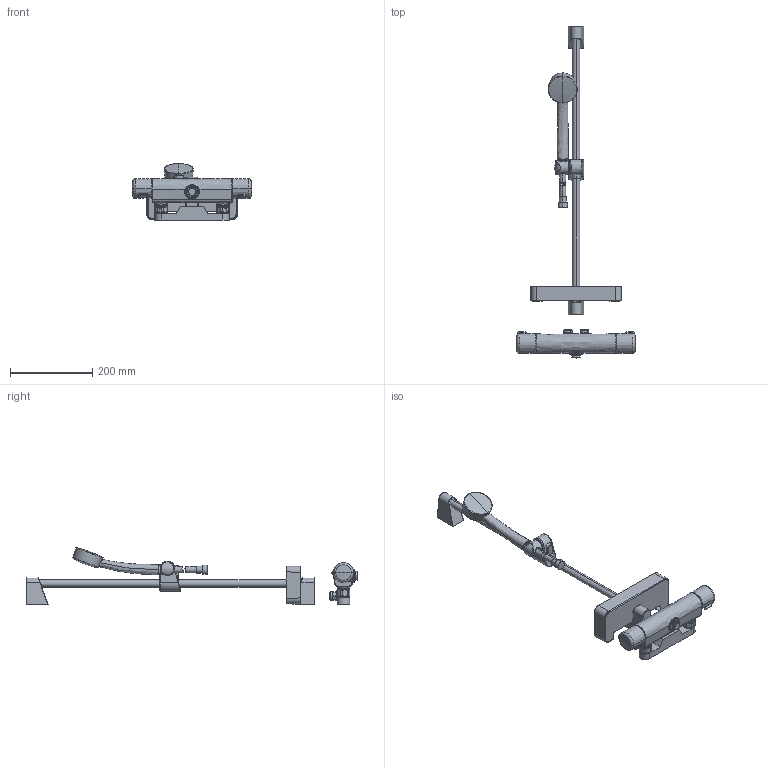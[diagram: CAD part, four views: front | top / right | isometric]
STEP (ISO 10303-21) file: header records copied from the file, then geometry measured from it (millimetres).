
FILE_DESCRIPTION (( 'STEP AP203' ), '1' );
FILE_NAME ('7424(2016).STEP', '2017-11-16T11:53:19', ( '' ), ( '' ), 'SwSTEP 2.0', 'SolidWorks 2016', '' );
FILE_SCHEMA (( 'CONFIG_CONTROL_DESIGN' ));
Length unit declared in the file: millimetre
Products named in the file (1): 7424(2016)
Bounding box: 289.8 x 805.9 x 137.64 mm (x, y, z)
Volume: 1601327.6 mm3; surface area: 280723.6 mm2
Topology: 22 solids, 22 shells, 490 faces, 1089 edges, 669 vertices
Faces by surface type: plane 150, cylinder 126, bspline 101, cone 61, torus 36, sphere 16
Entity records: 26535 total; most frequent: CARTESIAN_POINT 16453, ORIENTED_EDGE 2166, DIRECTION 1930, EDGE_CURVE 1083, AXIS2_PLACEMENT_3D 787, VERTEX_POINT 667, EDGE_LOOP 520, FACE_OUTER_BOUND 490
